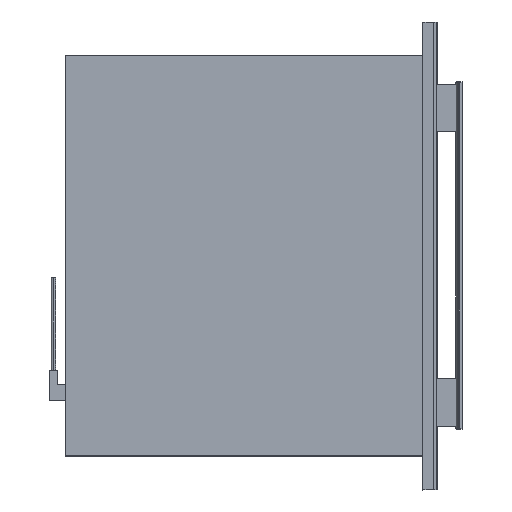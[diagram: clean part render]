
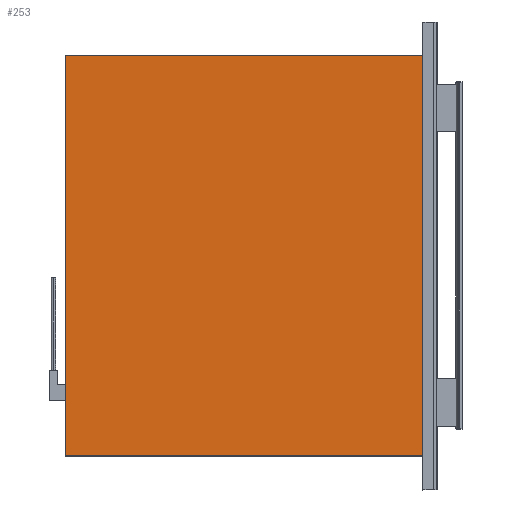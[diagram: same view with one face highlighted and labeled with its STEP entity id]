
A CAD part, top view. The second image highlights one B-rep face of the part: STEP entity #253.
In plain terms, the highlighted free-form (B-spline) face has degree [1, 1] with [2, 2] control points.
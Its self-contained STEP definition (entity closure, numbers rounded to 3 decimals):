
#253=ADVANCED_FACE('',(#333),#1053,.T.);
#333=FACE_OUTER_BOUND('',#413,.T.);
#413=EDGE_LOOP('',(#731,#732,#733,#734));
#731=ORIENTED_EDGE('',*,*,#900,.F.);
#732=ORIENTED_EDGE('',*,*,#892,.T.);
#733=ORIENTED_EDGE('',*,*,#899,.T.);
#734=ORIENTED_EDGE('',*,*,#894,.F.);
#892=EDGE_CURVE('',#994,#996,#1162,.T.);
#894=EDGE_CURVE('',#997,#999,#1164,.T.);
#899=EDGE_CURVE('',#996,#999,#1169,.T.);
#900=EDGE_CURVE('',#994,#997,#1170,.T.);
#994=VERTEX_POINT('',#2529);
#996=VERTEX_POINT('',#2531);
#997=VERTEX_POINT('',#2532);
#999=VERTEX_POINT('',#2534);
#1053=B_SPLINE_SURFACE_WITH_KNOTS('',1,1,((#2520,#2521),(#2522,#2523)),.UNSPECIFIED.,
.F.,.F.,.F.,(2,2),(2,2),(0.,1.),(0.,1.),.UNSPECIFIED.);
#1162=B_SPLINE_CURVE_WITH_KNOTS('',1,(#2486,#2487),.UNSPECIFIED.,.F.,.F.,
(2,2),(0.,1.),.UNSPECIFIED.);
#1164=B_SPLINE_CURVE_WITH_KNOTS('',1,(#2490,#2491),.UNSPECIFIED.,.F.,.F.,
(2,2),(0.,1.),.UNSPECIFIED.);
#1169=B_SPLINE_CURVE_WITH_KNOTS('',1,(#2500,#2501),.UNSPECIFIED.,.F.,.F.,
(2,2),(0.,1.),.UNSPECIFIED.);
#1170=B_SPLINE_CURVE_WITH_KNOTS('',1,(#2502,#2503),.UNSPECIFIED.,.F.,.F.,
(2,2),(0.,1.),.UNSPECIFIED.);
#2486=CARTESIAN_POINT('',(-577.867,323.797,268.028));
#2487=CARTESIAN_POINT('',(-577.867,-323.803,268.028));
#2490=CARTESIAN_POINT('',(1.666,323.797,268.028));
#2491=CARTESIAN_POINT('',(1.666,-323.803,268.028));
#2500=CARTESIAN_POINT('',(-577.867,-323.803,268.028));
#2501=CARTESIAN_POINT('',(1.666,-323.803,268.028));
#2502=CARTESIAN_POINT('',(-577.867,323.797,268.028));
#2503=CARTESIAN_POINT('',(1.666,323.797,268.028));
#2520=CARTESIAN_POINT('',(-577.867,323.797,268.028));
#2521=CARTESIAN_POINT('',(1.666,323.797,268.028));
#2522=CARTESIAN_POINT('',(-577.867,-323.803,268.028));
#2523=CARTESIAN_POINT('',(1.666,-323.803,268.028));
#2529=CARTESIAN_POINT('',(-577.867,323.797,268.028));
#2531=CARTESIAN_POINT('',(-577.867,-323.803,268.028));
#2532=CARTESIAN_POINT('',(1.666,323.797,268.028));
#2534=CARTESIAN_POINT('',(1.666,-323.803,268.028));
